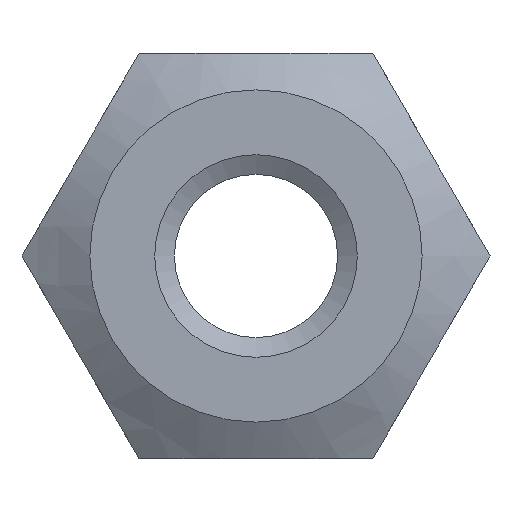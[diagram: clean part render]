
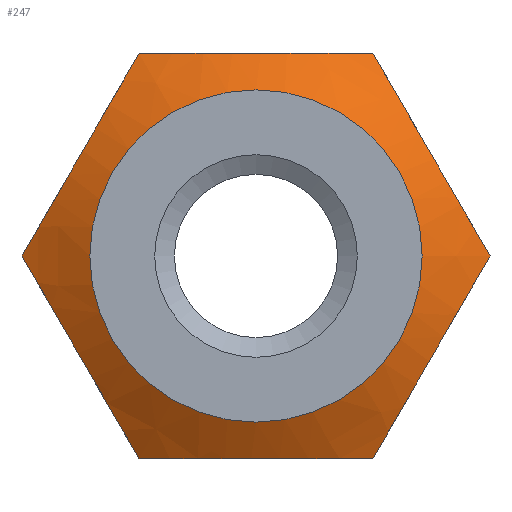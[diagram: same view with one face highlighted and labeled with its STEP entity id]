
A CAD part, left-side view. The second image highlights one B-rep face of the part: STEP entity #247.
In plain terms, the highlighted conical face has half-angle 60 degrees and reference radius 2.468 mm.
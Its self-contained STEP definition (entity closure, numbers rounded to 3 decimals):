
#48=(
BOUNDED_CURVE()
B_SPLINE_CURVE(2,(#377,#378,#379),.UNSPECIFIED.,.F.,.F.)
B_SPLINE_CURVE_WITH_KNOTS((3,3),(0.,0.292),.UNSPECIFIED.)
CURVE()
GEOMETRIC_REPRESENTATION_ITEM()
RATIONAL_B_SPLINE_CURVE((1.,1.155,1.))
REPRESENTATION_ITEM('')
);
#49=(
BOUNDED_CURVE()
B_SPLINE_CURVE(2,(#381,#382,#383),.UNSPECIFIED.,.F.,.F.)
B_SPLINE_CURVE_WITH_KNOTS((3,3),(0.,0.292),.UNSPECIFIED.)
CURVE()
GEOMETRIC_REPRESENTATION_ITEM()
RATIONAL_B_SPLINE_CURVE((1.,1.155,1.))
REPRESENTATION_ITEM('')
);
#50=(
BOUNDED_CURVE()
B_SPLINE_CURVE(2,(#385,#386,#387),.UNSPECIFIED.,.F.,.F.)
B_SPLINE_CURVE_WITH_KNOTS((3,3),(0.,0.292),.UNSPECIFIED.)
CURVE()
GEOMETRIC_REPRESENTATION_ITEM()
RATIONAL_B_SPLINE_CURVE((1.,1.155,1.))
REPRESENTATION_ITEM('')
);
#51=(
BOUNDED_CURVE()
B_SPLINE_CURVE(2,(#389,#390,#391),.UNSPECIFIED.,.F.,.F.)
B_SPLINE_CURVE_WITH_KNOTS((3,3),(0.,0.292),.UNSPECIFIED.)
CURVE()
GEOMETRIC_REPRESENTATION_ITEM()
RATIONAL_B_SPLINE_CURVE((1.,1.155,1.))
REPRESENTATION_ITEM('')
);
#52=(
BOUNDED_CURVE()
B_SPLINE_CURVE(2,(#393,#394,#395),.UNSPECIFIED.,.F.,.F.)
B_SPLINE_CURVE_WITH_KNOTS((3,3),(0.,0.292),.UNSPECIFIED.)
CURVE()
GEOMETRIC_REPRESENTATION_ITEM()
RATIONAL_B_SPLINE_CURVE((1.,1.155,1.))
REPRESENTATION_ITEM('')
);
#53=(
BOUNDED_CURVE()
B_SPLINE_CURVE(2,(#397,#398,#399),.UNSPECIFIED.,.F.,.F.)
B_SPLINE_CURVE_WITH_KNOTS((3,3),(0.,0.292),.UNSPECIFIED.)
CURVE()
GEOMETRIC_REPRESENTATION_ITEM()
RATIONAL_B_SPLINE_CURVE((1.,1.155,1.))
REPRESENTATION_ITEM('')
);
#76=FACE_OUTER_BOUND('',#91,.T.);
#91=EDGE_LOOP('',(#196,#197,#198,#199,#200,#201,#202,#203,#204));
#102=LINE('',#396,#113);
#113=VECTOR('',#327,2.468);
#125=CIRCLE('',#282,2.05);
#133=VERTEX_POINT('',#365);
#136=VERTEX_POINT('',#375);
#137=VERTEX_POINT('',#376);
#138=VERTEX_POINT('',#380);
#139=VERTEX_POINT('',#384);
#140=VERTEX_POINT('',#388);
#141=VERTEX_POINT('',#392);
#154=EDGE_CURVE('',#133,#133,#125,.T.);
#158=EDGE_CURVE('',#136,#137,#48,.T.);
#159=EDGE_CURVE('',#138,#136,#49,.T.);
#160=EDGE_CURVE('',#139,#138,#50,.T.);
#161=EDGE_CURVE('',#140,#139,#51,.T.);
#162=EDGE_CURVE('',#141,#140,#52,.T.);
#163=EDGE_CURVE('',#141,#133,#102,.T.);
#164=EDGE_CURVE('',#137,#141,#53,.T.);
#196=ORIENTED_EDGE('',*,*,#158,.F.);
#197=ORIENTED_EDGE('',*,*,#159,.F.);
#198=ORIENTED_EDGE('',*,*,#160,.F.);
#199=ORIENTED_EDGE('',*,*,#161,.F.);
#200=ORIENTED_EDGE('',*,*,#162,.F.);
#201=ORIENTED_EDGE('',*,*,#163,.T.);
#202=ORIENTED_EDGE('',*,*,#154,.F.);
#203=ORIENTED_EDGE('',*,*,#163,.F.);
#204=ORIENTED_EDGE('',*,*,#164,.F.);
#240=CONICAL_SURFACE('',#287,2.468,1.047);
#247=ADVANCED_FACE('',(#76),#240,.T.);
#282=AXIS2_PLACEMENT_3D('',#366,#314,#315);
#287=AXIS2_PLACEMENT_3D('',#374,#325,#326);
#314=DIRECTION('center_axis',(-1.,0.,0.));
#315=DIRECTION('ref_axis',(0.,1.,0.));
#325=DIRECTION('center_axis',(1.,0.,0.));
#326=DIRECTION('ref_axis',(0.,1.,0.));
#327=DIRECTION('',(-0.5,0.866,0.));
#365=CARTESIAN_POINT('',(0.,-2.05,0.));
#366=CARTESIAN_POINT('Origin',(0.,0.,0.));
#374=CARTESIAN_POINT('Origin',(0.242,0.,0.));
#375=CARTESIAN_POINT('',(0.483,1.443,2.5));
#376=CARTESIAN_POINT('',(0.483,-1.443,2.5));
#377=CARTESIAN_POINT('Ctrl Pts',(0.483,1.443,2.5));
#378=CARTESIAN_POINT('Ctrl Pts',(0.066,0.,2.5));
#379=CARTESIAN_POINT('Ctrl Pts',(0.483,-1.443,2.5));
#380=CARTESIAN_POINT('',(0.483,2.887,0.));
#381=CARTESIAN_POINT('Ctrl Pts',(0.483,2.887,0.));
#382=CARTESIAN_POINT('Ctrl Pts',(0.066,2.165,1.25));
#383=CARTESIAN_POINT('Ctrl Pts',(0.483,1.443,2.5));
#384=CARTESIAN_POINT('',(0.483,1.443,-2.5));
#385=CARTESIAN_POINT('Ctrl Pts',(0.483,1.443,-2.5));
#386=CARTESIAN_POINT('Ctrl Pts',(0.066,2.165,-1.25));
#387=CARTESIAN_POINT('Ctrl Pts',(0.483,2.887,0.));
#388=CARTESIAN_POINT('',(0.483,-1.443,-2.5));
#389=CARTESIAN_POINT('Ctrl Pts',(0.483,-1.443,-2.5));
#390=CARTESIAN_POINT('Ctrl Pts',(0.066,0.,
-2.5));
#391=CARTESIAN_POINT('Ctrl Pts',(0.483,1.443,-2.5));
#392=CARTESIAN_POINT('',(0.483,-2.887,0.));
#393=CARTESIAN_POINT('Ctrl Pts',(0.483,-2.887,0.));
#394=CARTESIAN_POINT('Ctrl Pts',(0.066,-2.165,-1.25));
#395=CARTESIAN_POINT('Ctrl Pts',(0.483,-1.443,-2.5));
#396=CARTESIAN_POINT('',(0.242,-2.468,0.));
#397=CARTESIAN_POINT('Ctrl Pts',(0.483,-1.443,2.5));
#398=CARTESIAN_POINT('Ctrl Pts',(0.066,-2.165,1.25));
#399=CARTESIAN_POINT('Ctrl Pts',(0.483,-2.887,0.));
